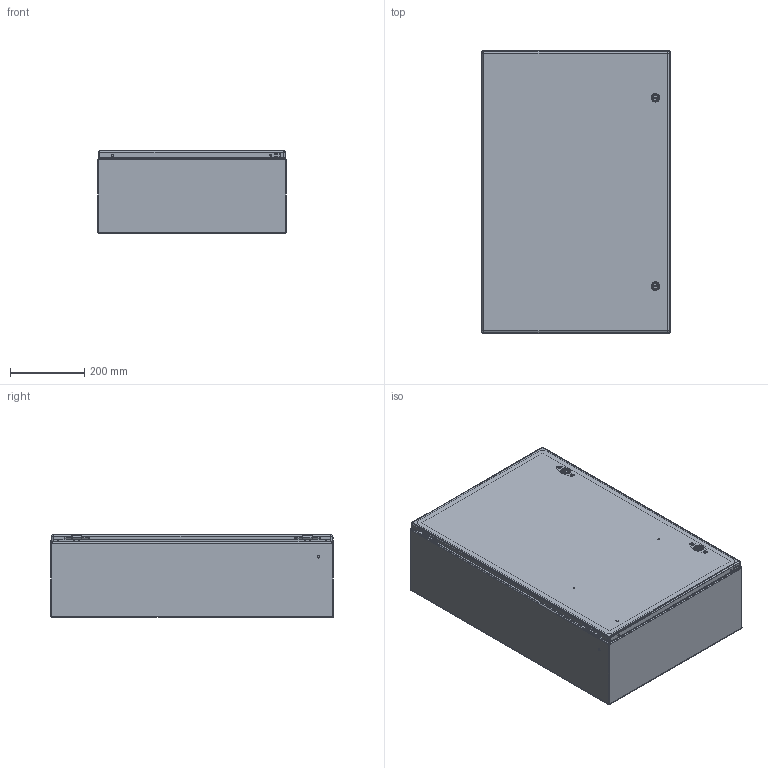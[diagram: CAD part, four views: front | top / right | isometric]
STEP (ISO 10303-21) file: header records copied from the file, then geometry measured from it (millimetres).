
FILE_DESCRIPTION (( 'STEP AP203' ), '1' );
FILE_NAME ('csd30208lg.STEP', '2012-04-18T20:55:03', ( 'Hoffman User' ), ( 'Hoffman Enclosures' ), 'SwSTEP 2.0', 'SolidWorks 2010', '' );
FILE_SCHEMA (( 'CONFIG_CONTROL_DESIGN' ));
Products named in the file (27): csd30208lg; 87950937; 87755755_default; 23271001_After Weld; 87937937_assy; 87937977_weldment; 87936136; 99401225; 87931362_87931362; 64101001; 64201001; 87541994_Installed Height; 87541995; 64202001; 64210001; 64203001; 87927840_87927840; 87932903; 64138001; 87938006; 87543027; 89076399; 89076193; 89056623; 87929507; 87929767; 87929769_Installed on Pin
Assembly tree (43 placements, depth 4):
  csd30208lg
    89076399  x2
      89076193
      89056623
    87543027  x2
    87950937
      23271001_After Weld  x4
      99401225
      87755755_default
    87937937_assy
      87937977_weldment
        99401225
        87936136
        87931362_87931362  x6
      87932903  x4
      64138001  x2
      64101001  x2
        64201001
        87541995
        64210001
        87927840_87927840
        64203001
        87541994_Installed Height
        64202001
      87938006
    87929507  x2
      87929769_Installed on Pin
      87929767
Bounding box: 508 x 762.3 x 223.9 mm (x, y, z)
Volume: 2335168.9 mm3; surface area: 2933635.7 mm2
Topology: 47 solids, 47 shells, 2331 faces, 5754 edges, 3472 vertices
Faces by surface type: plane 851, cylinder 704, bspline 512, cone 132, torus 124, sphere 8
Entity records: 46673 total; most frequent: CARTESIAN_POINT 16355, ORIENTED_EDGE 5918, DIRECTION 5185, EDGE_CURVE 2959, AXIS2_PLACEMENT_3D 1860, VERTEX_POINT 1814, LINE 1465, VECTOR 1465
